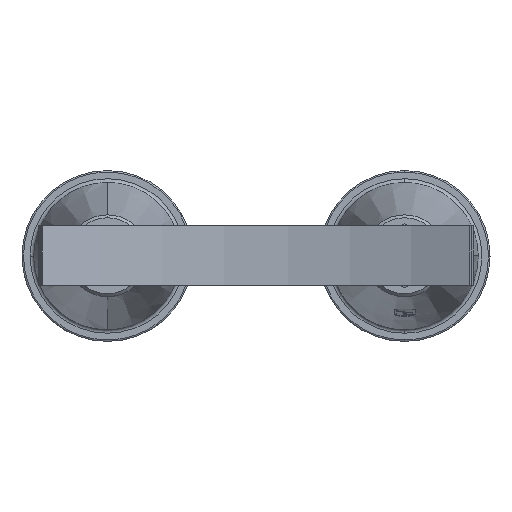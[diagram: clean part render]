
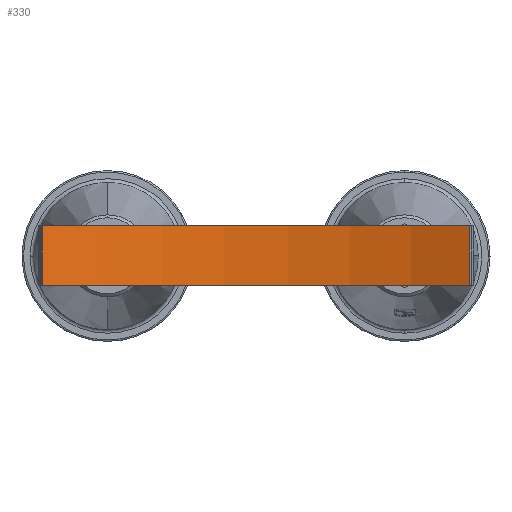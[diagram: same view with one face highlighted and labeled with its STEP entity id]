
A CAD part, top view. The second image highlights one B-rep face of the part: STEP entity #330.
In plain terms, the highlighted cylindrical face has radius 656 mm (diameter 1312 mm), a partial arc.
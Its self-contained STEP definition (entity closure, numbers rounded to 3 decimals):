
#330=ADVANCED_FACE('',(#814),#815,.F.);
#814=FACE_OUTER_BOUND('',#1532,.T.);
#815=CYLINDRICAL_SURFACE('',#1533,656.0);
#1532=EDGE_LOOP('',(#2205,#2206,#2207,#2208));
#1533=AXIS2_PLACEMENT_3D('',#2209,#2210,#2211);
#2205=ORIENTED_EDGE('',*,*,#4036,.T.);
#2206=ORIENTED_EDGE('',*,*,#4026,.F.);
#2207=ORIENTED_EDGE('',*,*,#4037,.T.);
#2208=ORIENTED_EDGE('',*,*,#4033,.T.);
#2209=CARTESIAN_POINT('',(515.109,656.161,772.48));
#2210=DIRECTION('',(0.,-1.0,0.));
#2211=DIRECTION('',(1.0,0.,0.));
#4026=EDGE_CURVE('',#4745,#4740,#4747,.T.);
#4033=EDGE_CURVE('',#4757,#4755,#4758,.T.);
#4036=EDGE_CURVE('',#4755,#4740,#4761,.T.);
#4037=EDGE_CURVE('',#4745,#4757,#4762,.T.);
#4740=VERTEX_POINT('',#5779);
#4745=VERTEX_POINT('',#5786);
#4747=LINE('',#5789,#5790);
#4755=VERTEX_POINT('',#5799);
#4757=VERTEX_POINT('',#5802);
#4758=LINE('',#5803,#5804);
#4761=CIRCLE('',#5808,656.0);
#4762=CIRCLE('',#5809,656.0);
#5779=CARTESIAN_POINT('',(803.129,576.161,183.09));
#5786=CARTESIAN_POINT('',(803.129,656.161,183.09));
#5789=CARTESIAN_POINT('',(803.129,656.161,183.09));
#5790=VECTOR('',#8742,1.0);
#5799=CARTESIAN_POINT('',(227.09,576.161,183.09));
#5802=CARTESIAN_POINT('',(227.09,656.161,183.09));
#5803=CARTESIAN_POINT('',(227.09,656.161,183.09));
#5804=VECTOR('',#8751,1.0);
#5808=AXIS2_PLACEMENT_3D('',#8753,#8754,#8755);
#5809=AXIS2_PLACEMENT_3D('',#8756,#8757,#8758);
#8742=DIRECTION('',(0.,-1.0,0.));
#8751=DIRECTION('',(0.,-1.0,0.));
#8753=CARTESIAN_POINT('',(515.109,576.161,772.48));
#8754=DIRECTION('',(0.,-1.0,0.));
#8755=DIRECTION('',(1.0,0.,0.));
#8756=CARTESIAN_POINT('',(515.109,656.161,772.48));
#8757=DIRECTION('',(0.,1.0,0.));
#8758=DIRECTION('',(1.0,0.,0.));
